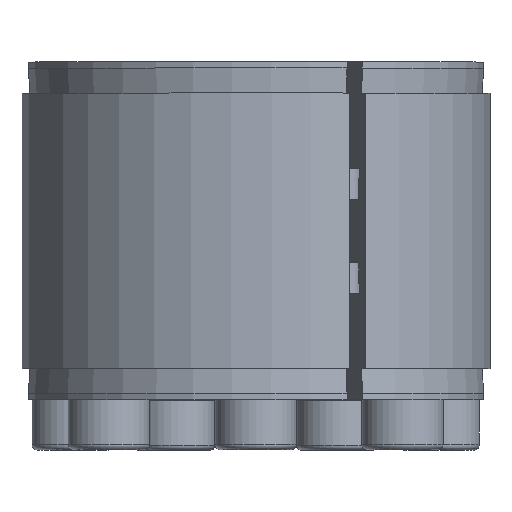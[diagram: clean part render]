
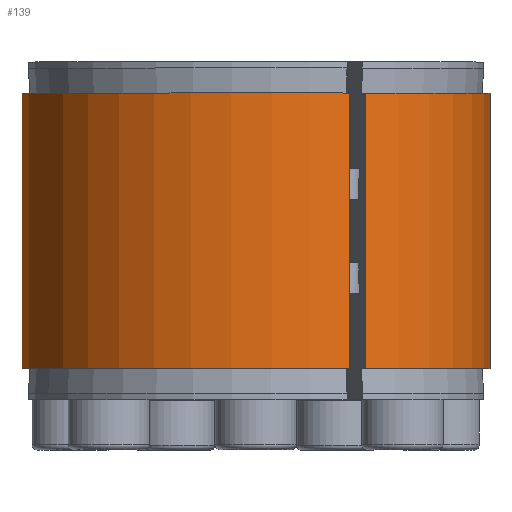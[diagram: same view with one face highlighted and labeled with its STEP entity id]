
A CAD part, top view. The second image highlights one B-rep face of the part: STEP entity #139.
In plain terms, the highlighted cylindrical face has radius 37.5 mm (diameter 75 mm), a partial arc.
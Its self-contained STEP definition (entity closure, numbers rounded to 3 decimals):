
#139 = ADVANCED_FACE( '', ( #328 ), #329, .T. );
#328 = FACE_OUTER_BOUND( '', #542, .T. );
#329 = CYLINDRICAL_SURFACE( '', #543, 37.5 );
#542 = EDGE_LOOP( '', ( #890, #891, #892, #893 ) );
#543 = AXIS2_PLACEMENT_3D( '', #894, #895, #896 );
#890 = ORIENTED_EDGE( '', *, *, #1103, .F. );
#891 = ORIENTED_EDGE( '', *, *, #1161, .T. );
#892 = ORIENTED_EDGE( '', *, *, #1178, .F. );
#893 = ORIENTED_EDGE( '', *, *, #1152, .F. );
#894 = CARTESIAN_POINT( '', ( 0., -60., 0. ) );
#895 = DIRECTION( '', ( 0., 1., 0. ) );
#896 = DIRECTION( '', ( 0., 0., -1. ) );
#1103 = EDGE_CURVE( '', #1333, #1335, #1336, .T. );
#1152 = EDGE_CURVE( '', #1335, #1417, #1418, .T. );
#1161 = EDGE_CURVE( '', #1333, #1428, #1430, .T. );
#1178 = EDGE_CURVE( '', #1417, #1428, #1451, .F. );
#1333 = VERTEX_POINT( '', #1715 );
#1335 = VERTEX_POINT( '', #1718 );
#1336 = LINE( '', #1719, #1720 );
#1417 = VERTEX_POINT( '', #1817 );
#1418 = CIRCLE( '', #1818, 37.5 );
#1428 = VERTEX_POINT( '', #1829 );
#1430 = CIRCLE( '', #1832, 37.5 );
#1451 = LINE( '', #1858, #1859 );
#1715 = CARTESIAN_POINT( '', ( 15.031, 49., 34.356 ) );
#1718 = CARTESIAN_POINT( '', ( 15.031, 5., 34.356 ) );
#1719 = CARTESIAN_POINT( '', ( 15.031, -60., 34.356 ) );
#1720 = VECTOR( '', #1995, 1000. );
#1817 = CARTESIAN_POINT( '', ( 17.488, 5., 33.172 ) );
#1818 = AXIS2_PLACEMENT_3D( '', #2087, #2088, #2089 );
#1829 = CARTESIAN_POINT( '', ( 17.488, 49., 33.172 ) );
#1832 = AXIS2_PLACEMENT_3D( '', #2098, #2099, #2100 );
#1858 = CARTESIAN_POINT( '', ( 17.488, -60., 33.172 ) );
#1859 = VECTOR( '', #2115, 1000. );
#1995 = DIRECTION( '', ( 0., -1., 0. ) );
#2087 = CARTESIAN_POINT( '', ( 0., 5., 0. ) );
#2088 = DIRECTION( '', ( 0., -1., 0. ) );
#2089 = DIRECTION( '', ( 0., 0., -1. ) );
#2098 = CARTESIAN_POINT( '', ( 0., 49., 0. ) );
#2099 = DIRECTION( '', ( 0., -1., 0. ) );
#2100 = DIRECTION( '', ( 0., 0., -1. ) );
#2115 = DIRECTION( '', ( 0., -1., 0. ) );
